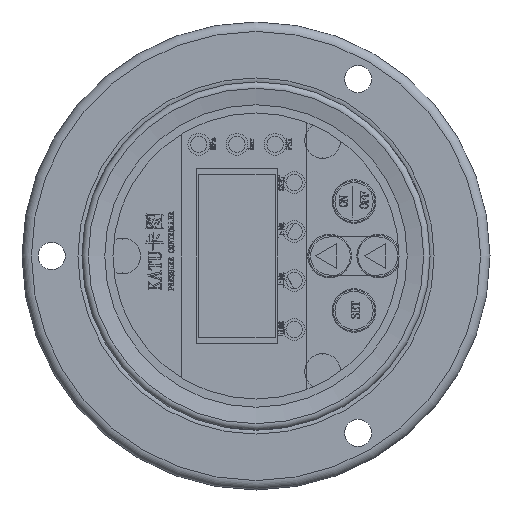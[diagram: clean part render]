
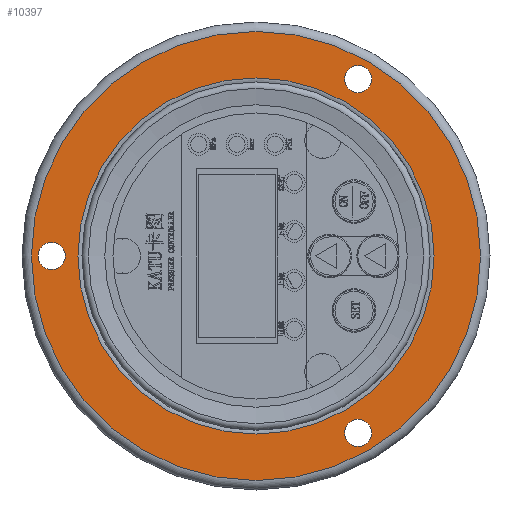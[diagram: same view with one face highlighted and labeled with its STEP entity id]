
A CAD part, left-side view. The second image highlights one B-rep face of the part: STEP entity #10397.
In plain terms, the highlighted planar face has unit normal (-1, 0, 0).
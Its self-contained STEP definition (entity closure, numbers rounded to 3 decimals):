
#8909=PLANE('',#36634);
#9893=FACE_BOUND('',#13479,.T.);
#9894=FACE_BOUND('',#13480,.T.);
#9895=FACE_BOUND('',#13481,.T.);
#9896=FACE_BOUND('',#13482,.T.);
#9897=FACE_BOUND('',#13483,.T.);
#10397=ADVANCED_FACE('',(#9893,#9894,#9895,#9896,#9897),#8909,.F.);
#13479=EDGE_LOOP('',(#21396));
#13480=EDGE_LOOP('',(#21397));
#13481=EDGE_LOOP('',(#21398));
#13482=EDGE_LOOP('',(#21399));
#13483=EDGE_LOOP('',(#21400));
#21396=ORIENTED_EDGE('',*,*,#32131,.T.);
#21397=ORIENTED_EDGE('',*,*,#32133,.T.);
#21398=ORIENTED_EDGE('',*,*,#32146,.T.);
#21399=ORIENTED_EDGE('',*,*,#32137,.T.);
#21400=ORIENTED_EDGE('',*,*,#32141,.F.);
#29270=VERTEX_POINT('',#44228);
#29272=VERTEX_POINT('',#44233);
#29276=VERTEX_POINT('',#44244);
#29280=VERTEX_POINT('',#44254);
#29285=VERTEX_POINT('',#44268);
#32131=EDGE_CURVE('',#29270,#29270,#36131,.T.);
#32133=EDGE_CURVE('',#29272,#29272,#36133,.T.);
#32137=EDGE_CURVE('',#29276,#29276,#36137,.T.);
#32141=EDGE_CURVE('',#29280,#29280,#36141,.T.);
#32146=EDGE_CURVE('',#29285,#29285,#36146,.T.);
#36131=CIRCLE('',#36608,2.5);
#36133=CIRCLE('',#36611,2.5);
#36137=CIRCLE('',#36618,32.687);
#36141=CIRCLE('',#36624,41.213);
#36146=CIRCLE('',#36633,2.5);
#36608=AXIS2_PLACEMENT_3D('',#44227,#38482,#38483);
#36611=AXIS2_PLACEMENT_3D('',#44232,#38488,#38489);
#36618=AXIS2_PLACEMENT_3D('',#44243,#38502,#38503);
#36624=AXIS2_PLACEMENT_3D('',#44253,#38514,#38515);
#36633=AXIS2_PLACEMENT_3D('',#44267,#38532,#38533);
#36634=AXIS2_PLACEMENT_3D('',#44269,#38534,#38535);
#38482=DIRECTION('',(1.,0.,0.));
#38483=DIRECTION('',(0.,-0.866,-0.5));
#38488=DIRECTION('',(1.,0.,0.));
#38489=DIRECTION('',(0.,0.866,-0.5));
#38502=DIRECTION('',(1.,0.,0.));
#38503=DIRECTION('',(0.,0.,1.));
#38514=DIRECTION('',(1.,0.,0.));
#38515=DIRECTION('',(0.,0.,1.));
#38532=DIRECTION('',(1.,0.,0.));
#38533=DIRECTION('',(0.,0.,1.));
#38534=DIRECTION('',(1.,0.,0.));
#38535=DIRECTION('',(0.,0.,-1.));
#44227=CARTESIAN_POINT('',(-4.802,-27.619,94.376));
#44228=CARTESIAN_POINT('',(-4.802,-29.784,93.126));
#44232=CARTESIAN_POINT('',(-4.802,-27.619,29.424));
#44233=CARTESIAN_POINT('',(-4.802,-25.453,28.174));
#44243=CARTESIAN_POINT('',(-4.802,-8.869,61.9));
#44244=CARTESIAN_POINT('',(-4.802,-8.869,94.587));
#44253=CARTESIAN_POINT('',(-4.802,-8.869,61.9));
#44254=CARTESIAN_POINT('',(-4.802,-8.869,103.113));
#44267=CARTESIAN_POINT('',(-4.802,28.631,61.9));
#44268=CARTESIAN_POINT('',(-4.802,28.631,64.4));
#44269=CARTESIAN_POINT('',(-4.802,-8.869,61.9));
